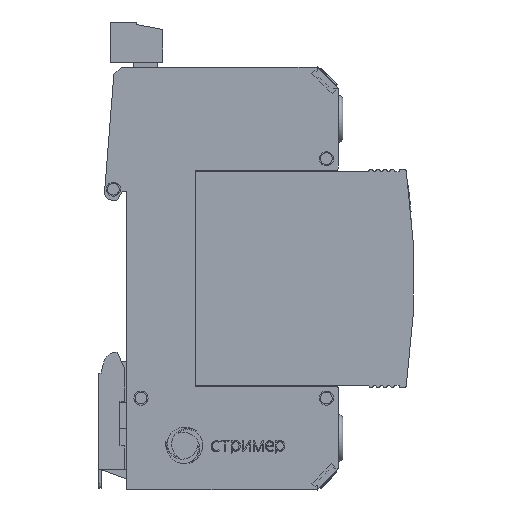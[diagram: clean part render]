
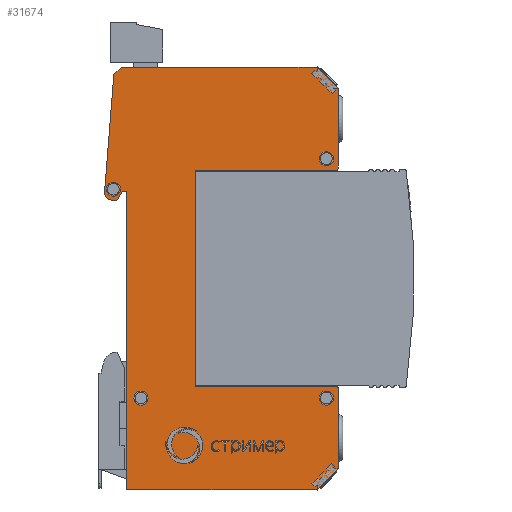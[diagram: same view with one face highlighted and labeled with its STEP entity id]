
A CAD part, front view. The second image highlights one B-rep face of the part: STEP entity #31674.
In plain terms, the highlighted planar face has unit normal (0, -1, 0).
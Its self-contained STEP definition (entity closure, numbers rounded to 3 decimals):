
#29874=CARTESIAN_POINT('',(-14.5,-9.,-45.));
#29875=VERTEX_POINT('',#29874);
#29876=CARTESIAN_POINT('',(26.,-9.,-45.));
#29877=VERTEX_POINT('',#29876);
#29878=CARTESIAN_POINT('',(-14.5,-9.,-45.));
#29879=DIRECTION('',(1.,0.,-0.));
#29880=VECTOR('',#29879,40.5);
#29881=LINE('',#29878,#29880);
#29882=EDGE_CURVE('',#29875,#29877,#29881,.T.);
#30544=CARTESIAN_POINT('',(-14.5,-9.,18.5));
#30545=VERTEX_POINT('',#30544);
#30546=CARTESIAN_POINT('',(-14.5,-9.,18.5));
#30547=DIRECTION('',(0.,0.,-1.));
#30548=VECTOR('',#30547,63.5);
#30549=LINE('',#30546,#30548);
#30550=EDGE_CURVE('',#30545,#29875,#30549,.T.);
#30745=CARTESIAN_POINT('',(-15.5,-9.,45.));
#30746=VERTEX_POINT('',#30745);
#30747=CARTESIAN_POINT('',(-17.29,-9.,43.498));
#30748=VERTEX_POINT('',#30747);
#30749=CARTESIAN_POINT('',(-15.5,-9.,45.));
#30750=DIRECTION('',(-0.766,0.,-0.643));
#30751=VECTOR('',#30750,2.337);
#30752=LINE('',#30749,#30751);
#30753=EDGE_CURVE('',#30746,#30748,#30752,.T.);
#30785=CARTESIAN_POINT('',(-19.273,-9.,18.306));
#30786=VERTEX_POINT('',#30785);
#30787=CARTESIAN_POINT('',(-17.29,-9.,43.498));
#30788=DIRECTION('',(-0.078,0.,-0.997));
#30789=VECTOR('',#30788,25.27);
#30790=LINE('',#30787,#30789);
#30791=EDGE_CURVE('',#30748,#30786,#30790,.T.);
#30816=CARTESIAN_POINT('',(-17.999,-9.,16.704));
#30817=VERTEX_POINT('',#30816);
#30818=CARTESIAN_POINT('',(-17.777,-9.,18.188));
#30819=DIRECTION('',(0.,-1.,0.));
#30820=DIRECTION('',(0.,0.,1.));
#30821=AXIS2_PLACEMENT_3D('',#30818,#30819,#30820);
#30822=CIRCLE('',#30821,1.5);
#30823=EDGE_CURVE('',#30786,#30817,#30822,.T.);
#30849=CARTESIAN_POINT('',(-16.632,-9.,16.5));
#30850=VERTEX_POINT('',#30849);
#30851=CARTESIAN_POINT('',(-17.999,-9.,16.704));
#30852=DIRECTION('',(0.989,0.,-0.148));
#30853=VECTOR('',#30852,1.383);
#30854=LINE('',#30851,#30853);
#30855=EDGE_CURVE('',#30817,#30850,#30854,.T.);
#30880=CARTESIAN_POINT('',(-15.5,-9.,18.5));
#30881=VERTEX_POINT('',#30880);
#30882=CARTESIAN_POINT('',(-16.632,-9.,16.5));
#30883=DIRECTION('',(0.492,0.,0.87));
#30884=VECTOR('',#30883,2.298);
#30885=LINE('',#30882,#30884);
#30886=EDGE_CURVE('',#30850,#30881,#30885,.T.);
#30911=CARTESIAN_POINT('',(-15.5,-9.,18.5));
#30912=DIRECTION('',(1.,0.,0.));
#30913=VECTOR('',#30912,1.);
#30914=LINE('',#30911,#30913);
#30915=EDGE_CURVE('',#30881,#30545,#30914,.T.);
#30933=CARTESIAN_POINT('',(30.5,-9.,-40.5));
#30934=VERTEX_POINT('',#30933);
#30935=CARTESIAN_POINT('',(26.,-9.,-45.));
#30936=DIRECTION('',(0.707,0.,0.707));
#30937=VECTOR('',#30936,6.364);
#30938=LINE('',#30935,#30937);
#30939=EDGE_CURVE('',#29877,#30934,#30938,.T.);
#30984=CARTESIAN_POINT('',(30.5,-9.,-23.5));
#30985=VERTEX_POINT('',#30984);
#30986=CARTESIAN_POINT('',(30.5,-9.,-40.5));
#30987=DIRECTION('',(0.,0.,1.));
#30988=VECTOR('',#30987,17.);
#30989=LINE('',#30986,#30988);
#30990=EDGE_CURVE('',#30934,#30985,#30989,.T.);
#31015=CARTESIAN_POINT('',(30.,-9.,-23.));
#31016=VERTEX_POINT('',#31015);
#31017=CARTESIAN_POINT('',(30.,-9.,-23.5));
#31018=DIRECTION('',(0.,-1.,0.));
#31019=DIRECTION('',(0.,0.,1.));
#31020=AXIS2_PLACEMENT_3D('',#31017,#31018,#31019);
#31021=CIRCLE('',#31020,0.5);
#31022=EDGE_CURVE('',#30985,#31016,#31021,.T.);
#31048=CARTESIAN_POINT('',(0.,-9.,-23.));
#31049=VERTEX_POINT('',#31048);
#31050=CARTESIAN_POINT('',(30.,-9.,-23.));
#31051=DIRECTION('',(-1.,0.,0.));
#31052=VECTOR('',#31051,30.);
#31053=LINE('',#31050,#31052);
#31054=EDGE_CURVE('',#31016,#31049,#31053,.T.);
#31079=CARTESIAN_POINT('',(0.,-9.,23.));
#31080=VERTEX_POINT('',#31079);
#31081=CARTESIAN_POINT('',(0.,-9.,-23.));
#31082=DIRECTION('',(0.,0.,1.));
#31083=VECTOR('',#31082,46.);
#31084=LINE('',#31081,#31083);
#31085=EDGE_CURVE('',#31049,#31080,#31084,.T.);
#31110=CARTESIAN_POINT('',(30.,-9.,23.));
#31111=VERTEX_POINT('',#31110);
#31112=CARTESIAN_POINT('',(0.,-9.,23.));
#31113=DIRECTION('',(1.,0.,0.));
#31114=VECTOR('',#31113,30.);
#31115=LINE('',#31112,#31114);
#31116=EDGE_CURVE('',#31080,#31111,#31115,.T.);
#31141=CARTESIAN_POINT('',(30.5,-9.,23.5));
#31142=VERTEX_POINT('',#31141);
#31143=CARTESIAN_POINT('',(30.,-9.,23.5));
#31144=DIRECTION('',(0.,-1.,0.));
#31145=DIRECTION('',(0.,0.,1.));
#31146=AXIS2_PLACEMENT_3D('',#31143,#31144,#31145);
#31147=CIRCLE('',#31146,0.5);
#31148=EDGE_CURVE('',#31111,#31142,#31147,.T.);
#31194=CARTESIAN_POINT('',(30.5,-9.,40.5));
#31195=VERTEX_POINT('',#31194);
#31196=CARTESIAN_POINT('',(30.5,-9.,23.5));
#31197=DIRECTION('',(0.,0.,1.));
#31198=VECTOR('',#31197,17.);
#31199=LINE('',#31196,#31198);
#31200=EDGE_CURVE('',#31142,#31195,#31199,.T.);
#31225=CARTESIAN_POINT('',(26.,-9.,45.));
#31226=VERTEX_POINT('',#31225);
#31227=CARTESIAN_POINT('',(30.5,-9.,40.5));
#31228=DIRECTION('',(-0.707,0.,0.707));
#31229=VECTOR('',#31228,6.364);
#31230=LINE('',#31227,#31229);
#31231=EDGE_CURVE('',#31195,#31226,#31230,.T.);
#31256=CARTESIAN_POINT('',(-17.38,-9.,17.5));
#31257=VERTEX_POINT('',#31256);
#31266=CARTESIAN_POINT('',(-18.88,-9.,19.));
#31267=VERTEX_POINT('',#31266);
#31268=CARTESIAN_POINT('',(-17.38,-9.,19.));
#31269=DIRECTION('',(0.,-1.,0.));
#31270=DIRECTION('',(-1.,0.,0.));
#31271=AXIS2_PLACEMENT_3D('',#31268,#31269,#31270);
#31272=CIRCLE('',#31271,1.5);
#31273=EDGE_CURVE('',#31257,#31267,#31272,.T.);
#31298=CARTESIAN_POINT('',(28.,-9.,24.));
#31299=VERTEX_POINT('',#31298);
#31308=CARTESIAN_POINT('',(26.5,-9.,25.5));
#31309=VERTEX_POINT('',#31308);
#31310=CARTESIAN_POINT('',(28.,-9.,25.5));
#31311=DIRECTION('',(0.,-1.,0.));
#31312=DIRECTION('',(-1.,0.,0.));
#31313=AXIS2_PLACEMENT_3D('',#31310,#31311,#31312);
#31314=CIRCLE('',#31313,1.5);
#31315=EDGE_CURVE('',#31299,#31309,#31314,.T.);
#31340=CARTESIAN_POINT('',(-11.5,-9.,-27.));
#31341=VERTEX_POINT('',#31340);
#31350=CARTESIAN_POINT('',(-13.,-9.,-25.5));
#31351=VERTEX_POINT('',#31350);
#31352=CARTESIAN_POINT('',(-11.5,-9.,-25.5));
#31353=DIRECTION('',(0.,-1.,0.));
#31354=DIRECTION('',(-1.,0.,0.));
#31355=AXIS2_PLACEMENT_3D('',#31352,#31353,#31354);
#31356=CIRCLE('',#31355,1.5);
#31357=EDGE_CURVE('',#31341,#31351,#31356,.T.);
#31382=CARTESIAN_POINT('',(28.,-9.,-27.));
#31383=VERTEX_POINT('',#31382);
#31392=CARTESIAN_POINT('',(26.5,-9.,-25.5));
#31393=VERTEX_POINT('',#31392);
#31394=CARTESIAN_POINT('',(28.,-9.,-25.5));
#31395=DIRECTION('',(0.,-1.,0.));
#31396=DIRECTION('',(-1.,0.,0.));
#31397=AXIS2_PLACEMENT_3D('',#31394,#31395,#31396);
#31398=CIRCLE('',#31397,1.5);
#31399=EDGE_CURVE('',#31383,#31393,#31398,.T.);
#31526=CARTESIAN_POINT('',(26.,-9.,45.));
#31527=DIRECTION('',(-1.,0.,0.));
#31528=VECTOR('',#31527,41.5);
#31529=LINE('',#31526,#31528);
#31530=EDGE_CURVE('',#31226,#30746,#31529,.T.);
#31609=CARTESIAN_POINT('',(0.,-9.,0.));
#31610=DIRECTION('',(0.,-1.,0.));
#31611=DIRECTION('',(0.,0.,1.));
#31612=AXIS2_PLACEMENT_3D('',#31609,#31610,#31611);
#31613=PLANE('',#31612);
#31614=ORIENTED_EDGE('',*,*,#31399,.F.);
#31615=CARTESIAN_POINT('',(28.,-9.,-25.5));
#31616=DIRECTION('',(0.,-1.,0.));
#31617=DIRECTION('',(-1.,0.,0.));
#31618=AXIS2_PLACEMENT_3D('',#31615,#31616,#31617);
#31619=CIRCLE('',#31618,1.5);
#31620=EDGE_CURVE('',#31393,#31383,#31619,.T.);
#31621=ORIENTED_EDGE('',*,*,#31620,.F.);
#31622=EDGE_LOOP('',(#31614,#31621));
#31623=FACE_BOUND('',#31622,.T.);
#31624=ORIENTED_EDGE('',*,*,#31357,.F.);
#31625=CARTESIAN_POINT('',(-11.5,-9.,-25.5));
#31626=DIRECTION('',(0.,-1.,0.));
#31627=DIRECTION('',(-1.,0.,0.));
#31628=AXIS2_PLACEMENT_3D('',#31625,#31626,#31627);
#31629=CIRCLE('',#31628,1.5);
#31630=EDGE_CURVE('',#31351,#31341,#31629,.T.);
#31631=ORIENTED_EDGE('',*,*,#31630,.F.);
#31632=EDGE_LOOP('',(#31624,#31631));
#31633=FACE_BOUND('',#31632,.T.);
#31634=ORIENTED_EDGE('',*,*,#31315,.F.);
#31635=CARTESIAN_POINT('',(28.,-9.,25.5));
#31636=DIRECTION('',(0.,-1.,0.));
#31637=DIRECTION('',(-1.,0.,0.));
#31638=AXIS2_PLACEMENT_3D('',#31635,#31636,#31637);
#31639=CIRCLE('',#31638,1.5);
#31640=EDGE_CURVE('',#31309,#31299,#31639,.T.);
#31641=ORIENTED_EDGE('',*,*,#31640,.F.);
#31642=EDGE_LOOP('',(#31634,#31641));
#31643=FACE_BOUND('',#31642,.T.);
#31644=ORIENTED_EDGE('',*,*,#31273,.F.);
#31645=CARTESIAN_POINT('',(-17.38,-9.,19.));
#31646=DIRECTION('',(0.,-1.,0.));
#31647=DIRECTION('',(-1.,0.,0.));
#31648=AXIS2_PLACEMENT_3D('',#31645,#31646,#31647);
#31649=CIRCLE('',#31648,1.5);
#31650=EDGE_CURVE('',#31267,#31257,#31649,.T.);
#31651=ORIENTED_EDGE('',*,*,#31650,.F.);
#31652=EDGE_LOOP('',(#31644,#31651));
#31653=FACE_BOUND('',#31652,.T.);
#31654=ORIENTED_EDGE('',*,*,#30753,.T.);
#31655=ORIENTED_EDGE('',*,*,#30791,.T.);
#31656=ORIENTED_EDGE('',*,*,#30823,.T.);
#31657=ORIENTED_EDGE('',*,*,#30855,.T.);
#31658=ORIENTED_EDGE('',*,*,#30886,.T.);
#31659=ORIENTED_EDGE('',*,*,#30915,.T.);
#31660=ORIENTED_EDGE('',*,*,#30550,.T.);
#31661=ORIENTED_EDGE('',*,*,#29882,.T.);
#31662=ORIENTED_EDGE('',*,*,#30939,.T.);
#31663=ORIENTED_EDGE('',*,*,#30990,.T.);
#31664=ORIENTED_EDGE('',*,*,#31022,.T.);
#31665=ORIENTED_EDGE('',*,*,#31054,.T.);
#31666=ORIENTED_EDGE('',*,*,#31085,.T.);
#31667=ORIENTED_EDGE('',*,*,#31116,.T.);
#31668=ORIENTED_EDGE('',*,*,#31148,.T.);
#31669=ORIENTED_EDGE('',*,*,#31200,.T.);
#31670=ORIENTED_EDGE('',*,*,#31231,.T.);
#31671=ORIENTED_EDGE('',*,*,#31530,.T.);
#31672=EDGE_LOOP('',(#31654,#31655,#31656,#31657,#31658,#31659,#31660,#31661,#31662,#31663,#31664,#31665,#31666,#31667,#31668,#31669,#31670,#31671));
#31673=FACE_BOUND('',#31672,.T.);
#31674=ADVANCED_FACE('',(#31623,#31633,#31643,#31653,#31673),#31613,.T.);
